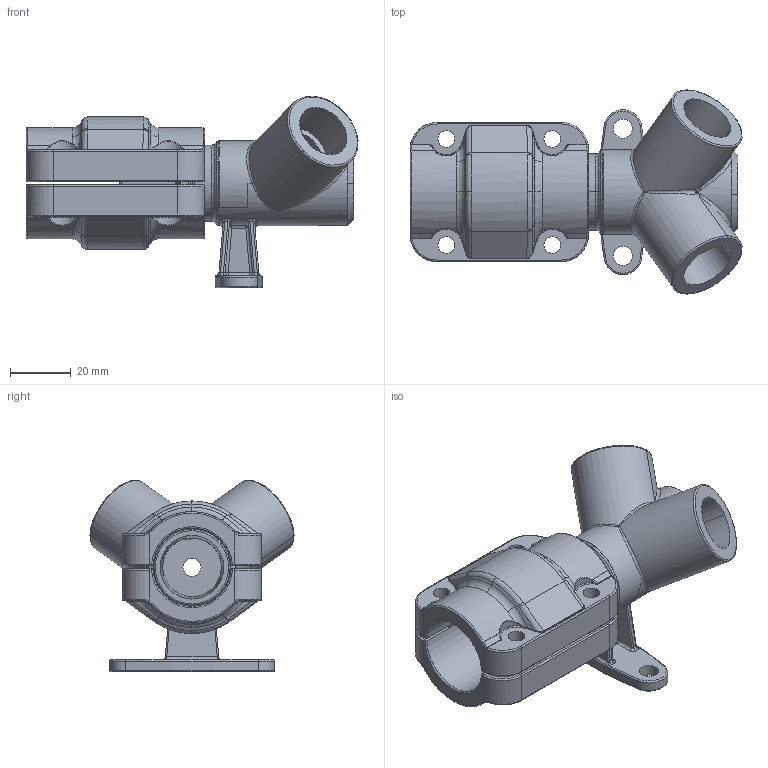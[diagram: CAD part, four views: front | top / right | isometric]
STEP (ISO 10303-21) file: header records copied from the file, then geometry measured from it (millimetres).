
FILE_DESCRIPTION(/* description */ (''),/* implementation_level */ '2;1');
FILE_NAME(/* name */ '2023.stp',/* time_stamp */ '2022-05-10T09:28:11+08:00',/* author */ (''),/* organization */ (''),/* preprocessor_version */ 'ST-DEVELOPER v11',/* originating_system */ 'SIEMENS PLM Software NX 7.5',/* authorisation */ '');
FILE_SCHEMA (('CONFIG_CONTROL_DESIGN'));
Length unit declared in the file: millimetre
Products named in the file (1): AdmiE323n7f9
Bounding box: 109.72 x 67.46 x 63.22 mm (x, y, z)
Volume: 88524.2 mm3; surface area: 38374.3 mm2
Topology: 3 solids, 3 shells, 541 faces, 1284 edges, 752 vertices
Faces by surface type: bspline 193, cylinder 166, plane 79, torus 66, cone 27, sphere 10
Full cylindrical faces by diameter (mm): 6.3 x2, 11 x1
Entity records: 23422 total; most frequent: CARTESIAN_POINT 12256, ORIENTED_EDGE 2558, DIRECTION 2034, EDGE_CURVE 1279, AXIS2_PLACEMENT_3D 840, VERTEX_POINT 755, EDGE_LOOP 578, ADVANCED_FACE 541
